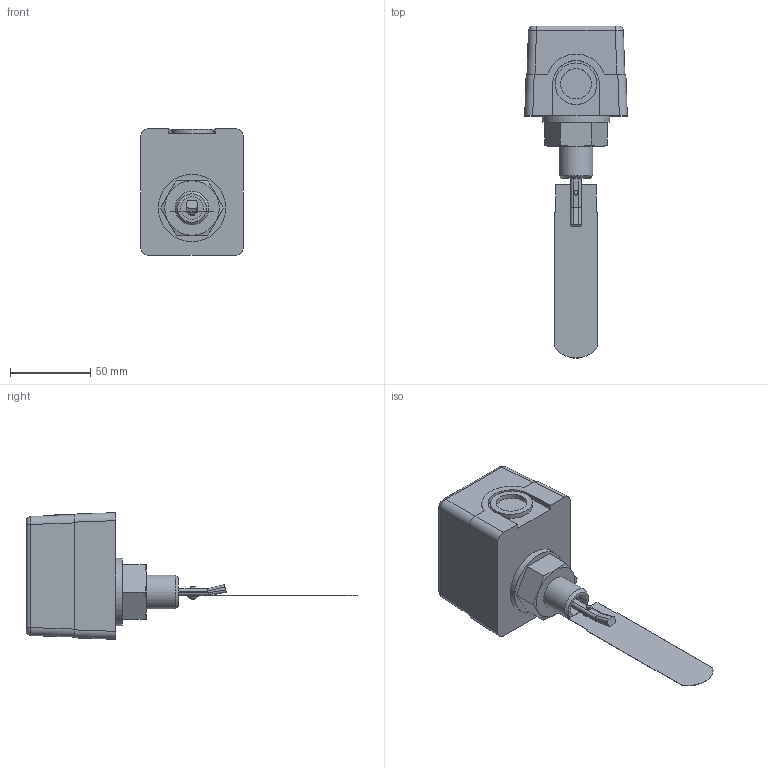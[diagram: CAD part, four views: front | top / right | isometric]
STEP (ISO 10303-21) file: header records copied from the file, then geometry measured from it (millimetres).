
FILE_DESCRIPTION(/* description */ ('РП-1-R1/2 Лопасть 108'),/* implementation_level */ '2;1');
FILE_NAME(/* name */ 'D:\STEP\РП\РП-1-R1_2 Лопасть 108.stp',/* time_stamp */ '2023-05-10T12:48:53+03:00',/* author */ ('Tech'),/* organization */ (''),/* preprocessor_version */ 'ST-DEVELOPER v18.1',/* originating_system */ 'Autodesk Inventor 2021',/* authorisation */ '');
FILE_SCHEMA (('AUTOMOTIVE_DESIGN { 1 0 10303 214 3 1 1 }'));
Length unit declared in the file: millimetre
Products named in the file (1): РП-1-R1/2 Лопасть 
108
Bounding box: 64 x 206.94 x 79 mm (x, y, z)
Volume: 283653.6 mm3; surface area: 37197 mm2
Topology: 4 solids, 4 shells, 197 faces, 507 edges, 338 vertices
Faces by surface type: plane 117, cylinder 65, cone 9, bspline 4, torus 1, sphere 1
Full cylindrical faces by diameter (mm): 2.584 x1, 3 x2, 3.2 x1, 4.5 x1, 5.115 x1, 5.5 x1, 7 x1, 14 x1, 19 x1, 20.955 x1, 26 x1, 42 x1
Entity records: 6214 total; most frequent: CARTESIAN_POINT 1198, DIRECTION 1050, ORIENTED_EDGE 1012, EDGE_CURVE 506, AXIS2_PLACEMENT_3D 370, VERTEX_POINT 338, LINE 310, VECTOR 310
